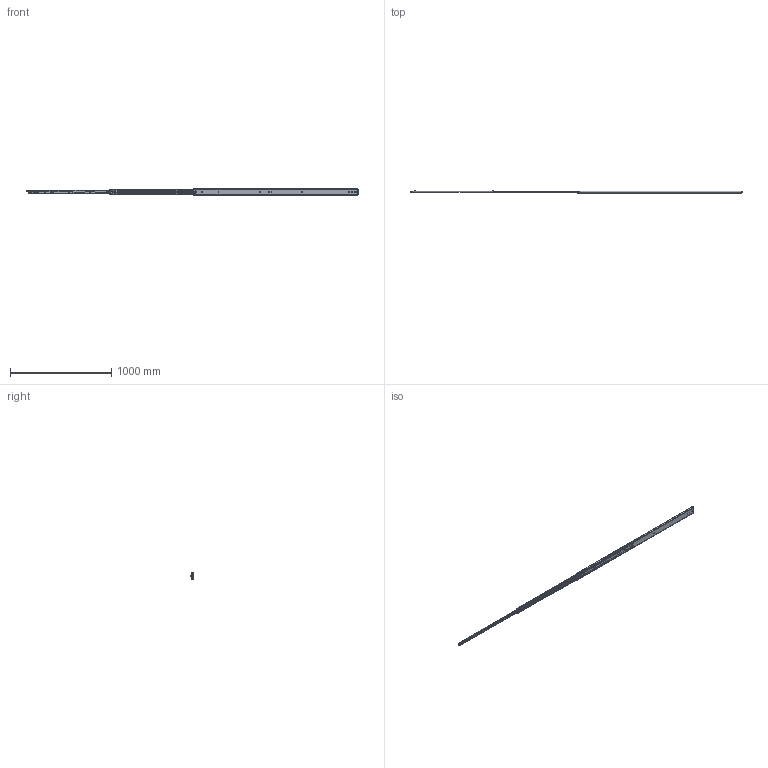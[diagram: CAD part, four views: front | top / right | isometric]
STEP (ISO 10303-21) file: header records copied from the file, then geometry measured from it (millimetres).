
FILE_DESCRIPTION((''),'2;1');
FILE_NAME('DG-76-3S-64YOU_ASM','2023-05-11T',('jishu015'),(''),'PRO/ENGINEER BY PARAMETRIC TECHNOLOGY CORPORATION, 2010280','PRO/ENGINEER BY PARAMETRIC TECHNOLOGY CORPORATION, 2010280','');
FILE_SCHEMA(('CONFIG_CONTROL_DESIGN'));
Products named in the file (29): KP-76-04WAIKE-181621__; 1076-WAIKEZIDANJIAO1621_____; WAIK16_________________ASM; 1076XIAOZHUTIAO-2251621_____; 16________________; 1076XIAOZHUTIAO-1751621______ASM; KP-76-04ZHONGGUI181611____; 76CHANGGUIZHONGGUIJIAO162111__; 3X6WODIN16________________; ZHONGGUIBAIKOU1621; PJ-76-30_______________; PJ-76-03_______________; 76-XIAOZHUJIA-11_______________; GANGZHU-XIAO_______________; ZHUJIA-XIAO________________ASM; ZHONGGUI6_________________ASM; KP-76-04NEIGUI181611__; PJ-76-31_______________; DAOGPIAN16________________; 1053-3SBANJ01_______________; JIAO-11_______________; 76XINSUOKOU_______________; PJ-338_______________; PJ-356_______________; PJ-357_______________; PJ-336_______________; M4X4_______________; NEIGUI16_________________ASM; DG-76-3S-64YOU_ASM
Assembly tree (120 placements, depth 4):
  DG-76-3S-64YOU_ASM
    WAIK16_________________ASM
      KP-76-04WAIKE-181621__
      1076-WAIKEZIDANJIAO1621_____  x2
    1076XIAOZHUTIAO-1751621______ASM  x2
      1076XIAOZHUTIAO-2251621_____
      16________________
    ZHONGGUI6_________________ASM
      KP-76-04ZHONGGUI181611____
      76CHANGGUIZHONGGUIJIAO162111__
      3X6WODIN16________________
      ZHONGGUIBAIKOU1621
      PJ-76-30_______________
      PJ-76-03_______________
      ZHUJIA-XIAO________________ASM
        76-XIAOZHUJIA-11_______________
        GANGZHU-XIAO_______________  x62
    NEIGUI16_________________ASM
      KP-76-04NEIGUI181611__
      PJ-76-31_______________
      DAOGPIAN16________________
      1053-3SBANJ01_______________
      JIAO-11_______________
      76XINSUOKOU_______________
      PJ-338_______________
      PJ-356_______________
      PJ-357_______________
      PJ-336_______________
      M4X4_______________
Bounding box: 3277.12 x 20.7 x 75.3 mm (x, y, z)
Volume: 1078167.8 mm3; surface area: 1039320.9 mm2
Topology: 146 solids, 146 shells, 3230 faces, 9948 edges, 6249 vertices
Faces by surface type: plane 1679, cylinder 1177, sphere 251, bspline 56, cone 28, extrusion 23, torus 16
Entity records: 100526 total; most frequent: CARTESIAN_POINT 26380, ORIENTED_EDGE 16476, DIRECTION 14475, EDGE_CURVE 8238, VERTEX_POINT 5361, AXIS2_PLACEMENT_3D 5093, VECTOR 4289, LINE 4266
